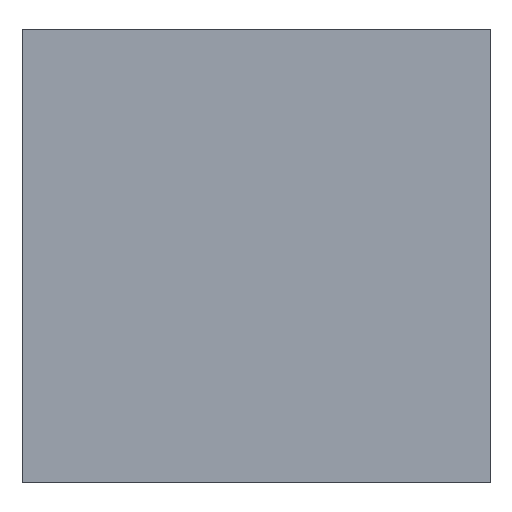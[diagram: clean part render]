
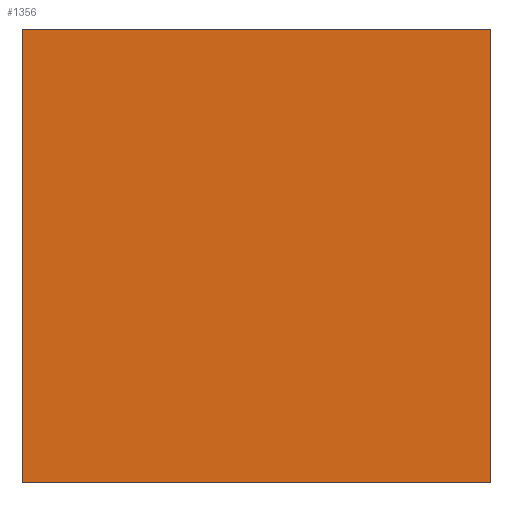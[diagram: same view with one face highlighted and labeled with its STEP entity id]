
A CAD part, left-side view. The second image highlights one B-rep face of the part: STEP entity #1356.
In plain terms, the highlighted planar face has unit normal (-1, 0, 0).
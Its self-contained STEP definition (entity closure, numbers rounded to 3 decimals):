
#29 = DIRECTION ( 'NONE',  ( 0., 0., -1. ) ) ;
#33 = CARTESIAN_POINT ( 'NONE',  ( -56., 25.5, 0. ) ) ;
#45 = EDGE_CURVE ( 'NONE', #1083, #148, #1280, .T. ) ;
#77 = VECTOR ( 'NONE', #1132, 1000. ) ;
#120 = CARTESIAN_POINT ( 'NONE',  ( -56., 25.5, 49.3 ) ) ;
#121 = EDGE_CURVE ( 'NONE', #148, #532, #147, .T. ) ;
#147 = LINE ( 'NONE', #365, #610 ) ;
#148 = VERTEX_POINT ( 'NONE', #719 ) ;
#185 = FACE_OUTER_BOUND ( 'NONE', #461, .T. ) ;
#272 = DIRECTION ( 'NONE',  ( 0., -1., 0. ) ) ;
#287 = VECTOR ( 'NONE', #272, 1000. ) ;
#292 = ORIENTED_EDGE ( 'NONE', *, *, #737, .T. ) ;
#345 = PLANE ( 'NONE',  #1351 ) ;
#362 = LINE ( 'NONE', #1271, #808 ) ;
#365 = CARTESIAN_POINT ( 'NONE',  ( -56., -25.5, 49.3 ) ) ;
#461 = EDGE_LOOP ( 'NONE', ( #870, #778, #676, #292 ) ) ;
#532 = VERTEX_POINT ( 'NONE', #972 ) ;
#610 = VECTOR ( 'NONE', #900, 1000. ) ;
#649 = CARTESIAN_POINT ( 'NONE',  ( -56., -25.5, 49.3 ) ) ;
#676 = ORIENTED_EDGE ( 'NONE', *, *, #45, .F. ) ;
#696 = CARTESIAN_POINT ( 'NONE',  ( -56., 25.5, 49.3 ) ) ;
#719 = CARTESIAN_POINT ( 'NONE',  ( -56., -25.5, 49.3 ) ) ;
#737 = EDGE_CURVE ( 'NONE', #1083, #1091, #1233, .T. ) ;
#778 = ORIENTED_EDGE ( 'NONE', *, *, #121, .F. ) ;
#808 = VECTOR ( 'NONE', #1130, 1000. ) ;
#870 = ORIENTED_EDGE ( 'NONE', *, *, #888, .T. ) ;
#888 = EDGE_CURVE ( 'NONE', #1091, #532, #362, .T. ) ;
#900 = DIRECTION ( 'NONE',  ( 0., 0., -1. ) ) ;
#972 = CARTESIAN_POINT ( 'NONE',  ( -56., -25.5, 0. ) ) ;
#1083 = VERTEX_POINT ( 'NONE', #120 ) ;
#1091 = VERTEX_POINT ( 'NONE', #33 ) ;
#1130 = DIRECTION ( 'NONE',  ( 0., -1., 0. ) ) ;
#1132 = DIRECTION ( 'NONE',  ( 0., 0., -1. ) ) ;
#1191 = DIRECTION ( 'NONE',  ( 1., 0., 0. ) ) ;
#1233 = LINE ( 'NONE', #696, #77 ) ;
#1271 = CARTESIAN_POINT ( 'NONE',  ( -56., -25.5, 0. ) ) ;
#1280 = LINE ( 'NONE', #1335, #287 ) ;
#1335 = CARTESIAN_POINT ( 'NONE',  ( -56., -25.5, 49.3 ) ) ;
#1351 = AXIS2_PLACEMENT_3D ( 'NONE', #649, #1191, #29 ) ;
#1356 = ADVANCED_FACE ( 'NONE', ( #185 ), #345, .F. ) ;
